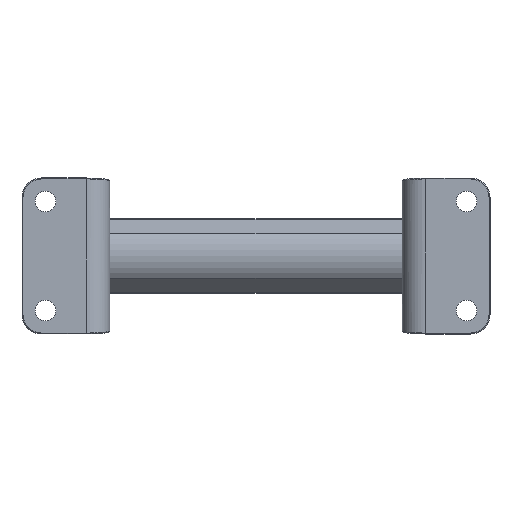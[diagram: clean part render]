
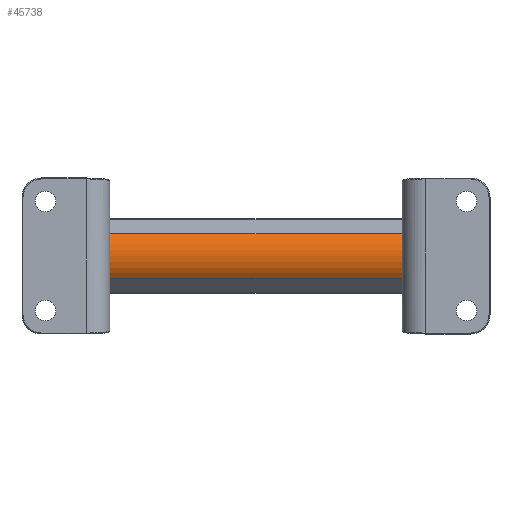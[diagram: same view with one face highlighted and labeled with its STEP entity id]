
A CAD part, front view. The second image highlights one B-rep face of the part: STEP entity #45738.
In plain terms, the highlighted cylindrical face has radius 19 mm (diameter 38 mm), a partial arc.
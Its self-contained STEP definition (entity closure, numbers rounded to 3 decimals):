
#1388 = CARTESIAN_POINT ( 'NONE',  ( 75., 0., 0. ) ) ;
#2910 = AXIS2_PLACEMENT_3D ( 'NONE', #76012, #23976, #38165 ) ;
#3512 = VERTEX_POINT ( 'NONE', #21449 ) ;
#11101 = ORIENTED_EDGE ( 'NONE', *, *, #79283, .T. ) ;
#11113 = CARTESIAN_POINT ( 'NONE',  ( 75., -15.158, 11.456 ) ) ;
#12790 = CARTESIAN_POINT ( 'NONE',  ( -75., -15.158, -11.456 ) ) ;
#12833 = DIRECTION ( 'NONE',  ( 1., 0., 0. ) ) ;
#14722 = DIRECTION ( 'NONE',  ( 0., 0., 1. ) ) ;
#17715 = CARTESIAN_POINT ( 'NONE',  ( 75., -15.158, -11.456 ) ) ;
#18137 = DIRECTION ( 'NONE',  ( -1., 0., 0. ) ) ;
#19531 = DIRECTION ( 'NONE',  ( 1., 0., 0. ) ) ;
#20782 = CIRCLE ( 'NONE', #2910, 19. ) ;
#21261 = ORIENTED_EDGE ( 'NONE', *, *, #50778, .F. ) ;
#21449 = CARTESIAN_POINT ( 'NONE',  ( -75., -15.158, 11.456 ) ) ;
#23976 = DIRECTION ( 'NONE',  ( 1., 0., 0. ) ) ;
#26381 = CARTESIAN_POINT ( 'NONE',  ( 75., 0., 0. ) ) ;
#27634 = DIRECTION ( 'NONE',  ( -1., 0., 0. ) ) ;
#30451 = CIRCLE ( 'NONE', #46953, 19. ) ;
#30630 = CARTESIAN_POINT ( 'NONE',  ( 75., -15.158, 11.456 ) ) ;
#32998 = EDGE_CURVE ( 'NONE', #36929, #55401, #51690, .T. ) ;
#34073 = CYLINDRICAL_SURFACE ( 'NONE', #71704, 19. ) ;
#34671 = ORIENTED_EDGE ( 'NONE', *, *, #32998, .T. ) ;
#36929 = VERTEX_POINT ( 'NONE', #12790 ) ;
#38165 = DIRECTION ( 'NONE',  ( 0., 0., -1. ) ) ;
#43771 = VERTEX_POINT ( 'NONE', #11113 ) ;
#45105 = ORIENTED_EDGE ( 'NONE', *, *, #69546, .T. ) ;
#45738 = ADVANCED_FACE ( 'NONE', ( #61967 ), #34073, .T. ) ;
#45813 = DIRECTION ( 'NONE',  ( 0., 0., -1. ) ) ;
#46953 = AXIS2_PLACEMENT_3D ( 'NONE', #26381, #19531, #45813 ) ;
#47357 = VECTOR ( 'NONE', #12833, 1000. ) ;
#50778 = EDGE_CURVE ( 'NONE', #43771, #55401, #30451, .T. ) ;
#51690 = LINE ( 'NONE', #77817, #47357 ) ;
#55401 = VERTEX_POINT ( 'NONE', #17715 ) ;
#61967 = FACE_OUTER_BOUND ( 'NONE', #66562, .T. ) ;
#64436 = VECTOR ( 'NONE', #18137, 1000. ) ;
#66562 = EDGE_LOOP ( 'NONE', ( #11101, #34671, #21261, #45105 ) ) ;
#69546 = EDGE_CURVE ( 'NONE', #43771, #3512, #77472, .T. ) ;
#71704 = AXIS2_PLACEMENT_3D ( 'NONE', #1388, #27634, #14722 ) ;
#76012 = CARTESIAN_POINT ( 'NONE',  ( -75., 0., 0. ) ) ;
#77472 = LINE ( 'NONE', #30630, #64436 ) ;
#77817 = CARTESIAN_POINT ( 'NONE',  ( 75., -15.158, -11.456 ) ) ;
#79283 = EDGE_CURVE ( 'NONE', #3512, #36929, #20782, .T. ) ;
